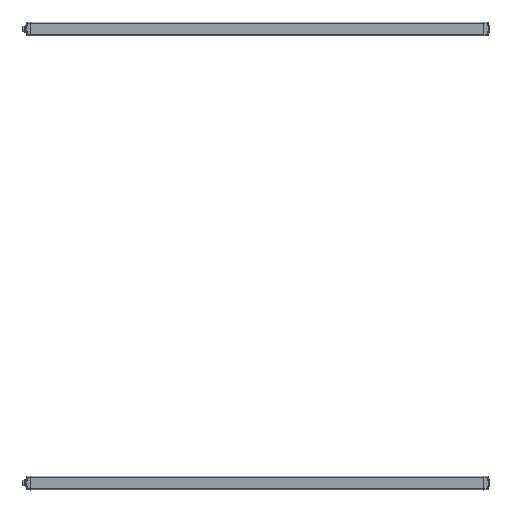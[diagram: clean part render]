
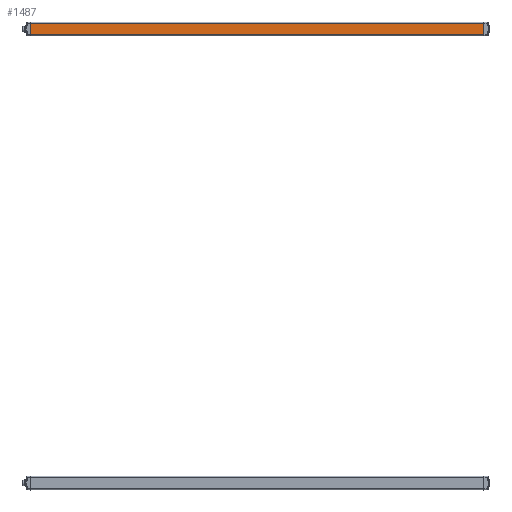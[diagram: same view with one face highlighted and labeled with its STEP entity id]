
A CAD part, front view. The second image highlights one B-rep face of the part: STEP entity #1487.
In plain terms, the highlighted planar face has unit normal (0, -1, 0).
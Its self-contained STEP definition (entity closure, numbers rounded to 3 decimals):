
#1487=ADVANCED_FACE('',(#2027),#11283,.T.);
#2027=FACE_OUTER_BOUND('',#2546,.T.);
#2546=EDGE_LOOP('',(#5822,#5823,#5824,#5825));
#3114=LINE('',#15601,#4287);
#3216=LINE('',#15833,#4389);
#3304=LINE('',#16012,#4477);
#3305=LINE('',#16013,#4478);
#4287=VECTOR('',#12577,1.);
#4389=VECTOR('',#12723,1.);
#4477=VECTOR('',#12913,1.);
#4478=VECTOR('',#12914,1.);
#5822=ORIENTED_EDGE('',*,*,#9464,.T.);
#5823=ORIENTED_EDGE('',*,*,#9673,.T.);
#5824=ORIENTED_EDGE('',*,*,#9581,.F.);
#5825=ORIENTED_EDGE('',*,*,#9674,.F.);
#8471=VERTEX_POINT('',#15600);
#8472=VERTEX_POINT('',#15602);
#8579=VERTEX_POINT('',#15832);
#8580=VERTEX_POINT('',#15834);
#9464=EDGE_CURVE('',#8472,#8471,#3114,.T.);
#9581=EDGE_CURVE('',#8579,#8580,#3216,.T.);
#9673=EDGE_CURVE('',#8471,#8580,#3304,.T.);
#9674=EDGE_CURVE('',#8472,#8579,#3305,.T.);
#11283=PLANE('',#11728);
#11728=AXIS2_PLACEMENT_3D('',#16014,#12915,#12916);
#12577=DIRECTION('',(0.,0.,-1.));
#12723=DIRECTION('',(0.,0.,-1.));
#12913=DIRECTION('',(1.,0.,0.));
#12914=DIRECTION('',(1.,0.,0.));
#12915=DIRECTION('',(0.,-1.,0.));
#12916=DIRECTION('',(0.,0.,-1.));
#15600=CARTESIAN_POINT('',(0.,-15.15,-12.));
#15601=CARTESIAN_POINT('',(0.,-15.15,12.));
#15602=CARTESIAN_POINT('',(0.,-15.15,12.));
#15832=CARTESIAN_POINT('',(1025.,-15.15,12.));
#15833=CARTESIAN_POINT('',(1025.,-15.15,12.));
#15834=CARTESIAN_POINT('',(1025.,-15.15,-12.));
#16012=CARTESIAN_POINT('',(0.,-15.15,-12.));
#16013=CARTESIAN_POINT('',(0.,-15.15,12.));
#16014=CARTESIAN_POINT('',(0.,-15.15,15.65));
